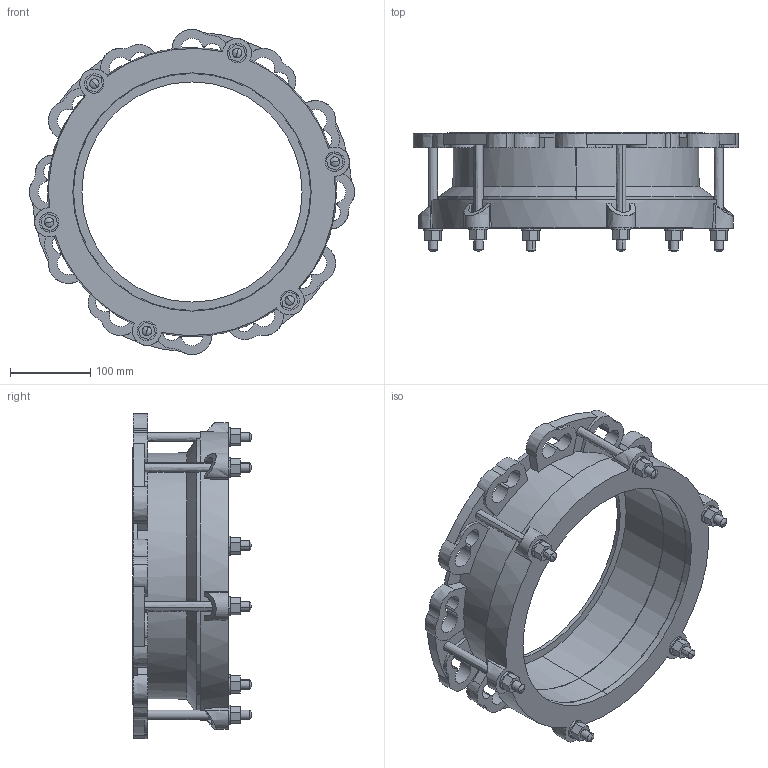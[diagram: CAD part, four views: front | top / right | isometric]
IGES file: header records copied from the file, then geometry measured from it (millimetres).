
Start section:  PTC IGES file: maxidaptor_266-295.igs
Global section: file name: maxidaptor_266-295.igs; native system: Creo Parametric by PTC Inc.; preprocessor: 2016130; author: MReader; organization: Unknown; date: 20181009.112138; units: millimetre
Bounding box: 404.96 x 148 x 404.96 mm (x, y, z)
Surface area: 627919.3 mm2 (no closed solid volume)
Topology: 0 solids, 0 shells, 332 faces, 1876 edges, 1864 vertices
Faces by surface type: revolution 197, bspline 135
